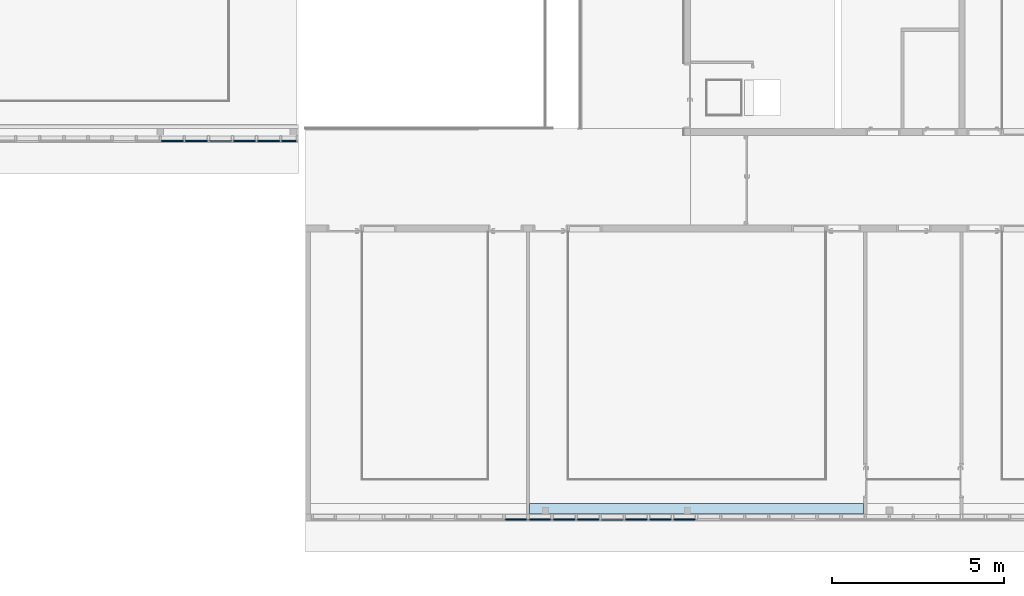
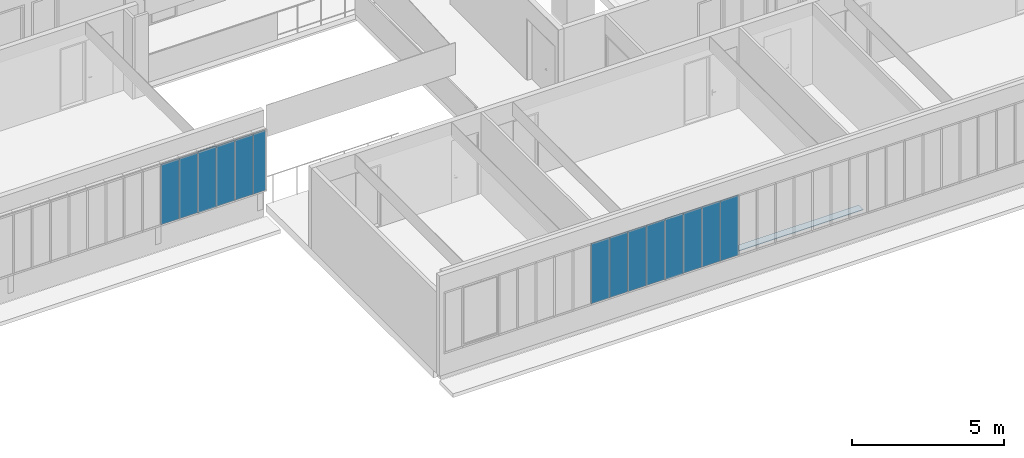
# One storey, part 21 of 87: 14 plates, 1 slab, 2 elements without a shape of their own.
"""IFC2X3 building model written with IfcOpenShell, lengths in centimetres."""

from ifc_helpers import new_model, entity, si_unit, converted_unit, derived_unit, direction, frame, frame_2d, origin, origin_2d_with_axis, place, context, subcontext, project, spatial, rectangle, extrude, face_set, surface_model, source, transform, mapped, material, layer, layer_set, layer_usage, type_object, type_shapes, element, aggregate, save


model = new_model("IFC2X3")

# Units and contexts
model_context = context("Model", 3, precision=0.001, world=origin(), true_north=direction((6.12303176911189e-17, 1.0)))
body_context = subcontext(model_context, "Body", "Model", "MODEL_VIEW")
ifc_project = project(units=[si_unit("LENGTHUNIT", "METRE", prefix="CENTI"), si_unit("AREAUNIT", "SQUARE_METRE"), si_unit("VOLUMEUNIT", "CUBIC_METRE"), converted_unit("PLANEANGLEUNIT", "DEGREE", entity("IfcRatioMeasure", 0.0174532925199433), si_unit("PLANEANGLEUNIT", "RADIAN"), dimensions=[0, 0, 0, 0, 0, 0, 0]), si_unit("MASSUNIT", "GRAM", prefix="KILO"), derived_unit("MASSDENSITYUNIT", [(si_unit("MASSUNIT", "GRAM", prefix="KILO"), 1), (si_unit("LENGTHUNIT", "METRE"), -3)]), si_unit("TIMEUNIT", "SECOND"), si_unit("FREQUENCYUNIT", "HERTZ"), si_unit("THERMODYNAMICTEMPERATUREUNIT", "DEGREE_CELSIUS"), derived_unit("THERMALTRANSMITTANCEUNIT", [(si_unit("MASSUNIT", "GRAM", prefix="KILO"), 1), (si_unit("THERMODYNAMICTEMPERATUREUNIT", "KELVIN"), -1), (si_unit("TIMEUNIT", "SECOND"), -3)]), derived_unit("VOLUMETRICFLOWRATEUNIT", [(si_unit("LENGTHUNIT", "METRE"), 3), (si_unit("TIMEUNIT", "SECOND"), -1)]), si_unit("ELECTRICCURRENTUNIT", "AMPERE"), si_unit("ELECTRICVOLTAGEUNIT", "VOLT"), si_unit("POWERUNIT", "WATT"), si_unit("FORCEUNIT", "NEWTON", prefix="KILO"), si_unit("ILLUMINANCEUNIT", "LUX"), si_unit("LUMINOUSFLUXUNIT", "LUMEN"), si_unit("LUMINOUSINTENSITYUNIT", "CANDELA"), derived_unit("USERDEFINED", [(si_unit("MASSUNIT", "GRAM", prefix="KILO"), -1), (si_unit("LENGTHUNIT", "METRE"), -2), (si_unit("TIMEUNIT", "SECOND"), 3), (si_unit("LUMINOUSFLUXUNIT", "LUMEN"), 1)]), derived_unit("LINEARVELOCITYUNIT", [(si_unit("LENGTHUNIT", "METRE"), 1), (si_unit("TIMEUNIT", "SECOND"), -1)]), si_unit("PRESSUREUNIT", "PASCAL"), derived_unit("USERDEFINED", [(si_unit("LENGTHUNIT", "METRE"), -2), (si_unit("MASSUNIT", "GRAM", prefix="KILO"), 1), (si_unit("TIMEUNIT", "SECOND"), -2)])], contexts=[model_context])

# Site, building, storey
site_placement = place(None, frame((-2781.94577612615, 7442.24238424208, 0.0)))
site = spatial("IfcSite", under=ifc_project, at=site_placement, Name="Default", CompositionType="ELEMENT")
building_placement = place(site_placement, origin())
building = spatial("IfcBuilding", under=site, at=building_placement, CompositionType="ELEMENT")
storey_placement = place(building_placement, frame((0.0, 0.0, 774.0)))
storey = spatial("IfcBuildingStorey", under=building, at=storey_placement, Name="TR - N02 - ARCH", CompositionType="ELEMENT", Elevation=774.0)

# Curtain wall, plates
curtain_wall_type = type_object("IfcCurtainWallType", Name="Mur-rideau:07 - mur rideau trame 70cm", PredefinedType="NOTDEFINED")
curtain_wall_1_placement = place(storey_placement, frame((0.0, 0.0, -774.0)))
curtain_wall_1 = element("IfcCurtainWall", 1, at=curtain_wall_1_placement, inside=storey, type_object=curtain_wall_type, Name="Mur-rideau:07 - mur rideau trame 70cm", ObjectType="Mur-rideau:07 - mur rideau trame 70cm")
ifc_material_1 = material(Name="Verre")
ifc_layer_1 = layer(ifc_material_1, 4.0)
ifc_layer_set_1 = layer_set([ifc_layer_1], Name="Panneau système:Vitré")
ifc_layer_usage_1 = layer_usage(ifc_layer_set_1, "AXIS3", "POSITIVE", 0.0)
plate_type_1 = type_object("IfcPlateType", Name="Vitré", PredefinedType="CURTAIN_PANEL", material=ifc_layer_set_1)
shared_shape_1 = source(origin(), body_context, "Body", "SweptSolid", [
    extrude(rectangle(XDim=4.0, YDim=68.2624999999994, at=origin_2d_with_axis()), frame((0.0, 0.0, 0.0), z_axis=(0.0, 0.0, 1.0), x_axis=(0.0, 1.0, 0.0)), (0.0, 0.0, 1.0), 240.7625),
])
type_shapes(plate_type_1, [shared_shape_1])
plate_1_placement = place(curtain_wall_1_placement, frame((-5154.49987763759, -1946.27903364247, 861.61875)))
plate_1 = element("IfcPlate", 2, at=plate_1_placement, type_object=plate_type_1, material=ifc_layer_usage_1, Name="Panneau système:Vitré", ObjectType="Panneau système:Vitré", context=body_context, shape_type="MappedRepresentation", body=[
    mapped(shared_shape_1, transform((0.0, 0.0, 0.0), scale=1.0)),
])
ifc_layer_usage_2 = layer_usage(ifc_layer_set_1, "AXIS3", "POSITIVE", 0.0)
plate_2_placement = place(curtain_wall_1_placement, frame((-5084.49987763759, -1946.27903364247, 861.61875)))
plate_2 = element("IfcPlate", 3, at=plate_2_placement, type_object=plate_type_1, material=ifc_layer_usage_2, Name="Panneau système:Vitré", ObjectType="Panneau système:Vitré", context=body_context, shape_type="MappedRepresentation", body=[
    mapped(shared_shape_1, transform((0.0, 0.0, 0.0), scale=1.0)),
])
ifc_layer_usage_3 = layer_usage(ifc_layer_set_1, "AXIS3", "POSITIVE", 0.0)
plate_3_placement = place(curtain_wall_1_placement, frame((-4944.49987763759, -1946.27903364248, 861.61875)))
plate_3 = element("IfcPlate", 4, at=plate_3_placement, type_object=plate_type_1, material=ifc_layer_usage_3, Name="Panneau système:Vitré", ObjectType="Panneau système:Vitré", context=body_context, shape_type="MappedRepresentation", body=[
    mapped(shared_shape_1, transform((0.0, 0.0, 0.0), scale=1.0)),
])
ifc_layer_usage_4 = layer_usage(ifc_layer_set_1, "AXIS3", "POSITIVE", 0.0)
plate_4_placement = place(curtain_wall_1_placement, frame((-4874.49987763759, -1946.27903364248, 861.61875)))
plate_4 = element("IfcPlate", 5, at=plate_4_placement, type_object=plate_type_1, material=ifc_layer_usage_4, Name="Panneau système:Vitré", ObjectType="Panneau système:Vitré", context=body_context, shape_type="MappedRepresentation", body=[
    mapped(shared_shape_1, transform((0.0, 0.0, 0.0), scale=1.0)),
])

curtain_wall_2_placement = place(storey_placement, frame((0.0, 0.0, -774.0)))
curtain_wall_2 = element("IfcCurtainWall", 6, at=curtain_wall_2_placement, inside=storey, type_object=curtain_wall_type, Name="Mur-rideau:07 - mur rideau trame 70cm", ObjectType="Mur-rideau:07 - mur rideau trame 70cm")
ifc_layer_usage_5 = layer_usage(ifc_layer_set_1, "AXIS3", "POSITIVE", 0.0)
plate_5_placement = place(curtain_wall_2_placement, frame((-4155.749882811, -3046.51349958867, 861.618750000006)))
plate_5 = element("IfcPlate", 7, at=plate_5_placement, type_object=plate_type_1, material=ifc_layer_usage_5, Name="Panneau système:Vitré", ObjectType="Panneau système:Vitré", context=body_context, shape_type="MappedRepresentation", body=[
    mapped(shared_shape_1, transform((0.0, 0.0, 0.0), scale=1.0)),
])
ifc_layer_usage_6 = layer_usage(ifc_layer_set_1, "AXIS3", "POSITIVE", 0.0)
plate_6_placement = place(curtain_wall_2_placement, frame((-4085.749882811, -3046.51349958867, 861.618750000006)))
plate_6 = element("IfcPlate", 8, at=plate_6_placement, type_object=plate_type_1, material=ifc_layer_usage_6, Name="Panneau système:Vitré", ObjectType="Panneau système:Vitré", context=body_context, shape_type="MappedRepresentation", body=[
    mapped(shared_shape_1, transform((0.0, 0.0, 0.0), scale=1.0)),
])
ifc_layer_usage_7 = layer_usage(ifc_layer_set_1, "AXIS3", "POSITIVE", 0.0)
plate_7_placement = place(curtain_wall_2_placement, frame((-4015.749882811, -3046.51349958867, 861.618750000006)))
plate_7 = element("IfcPlate", 9, at=plate_7_placement, type_object=plate_type_1, material=ifc_layer_usage_7, Name="Panneau système:Vitré", ObjectType="Panneau système:Vitré", context=body_context, shape_type="MappedRepresentation", body=[
    mapped(shared_shape_1, transform((0.0, 0.0, 0.0), scale=1.0)),
])
ifc_layer_usage_8 = layer_usage(ifc_layer_set_1, "AXIS3", "POSITIVE", 0.0)
plate_8_placement = place(curtain_wall_2_placement, frame((-3945.749882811, -3046.51349958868, 861.618750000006)))
plate_8 = element("IfcPlate", 10, at=plate_8_placement, type_object=plate_type_1, material=ifc_layer_usage_8, Name="Panneau système:Vitré", ObjectType="Panneau système:Vitré", context=body_context, shape_type="MappedRepresentation", body=[
    mapped(shared_shape_1, transform((0.0, 0.0, 0.0), scale=1.0)),
])
ifc_layer_usage_9 = layer_usage(ifc_layer_set_1, "AXIS3", "POSITIVE", 0.0)
plate_9_placement = place(curtain_wall_2_placement, frame((-3805.749882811, -3046.51349958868, 861.618750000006)))
plate_9 = element("IfcPlate", 11, at=plate_9_placement, type_object=plate_type_1, material=ifc_layer_usage_9, Name="Panneau système:Vitré", ObjectType="Panneau système:Vitré", context=body_context, shape_type="MappedRepresentation", body=[
    mapped(shared_shape_1, transform((0.0, 0.0, 0.0), scale=1.0)),
])
ifc_layer_usage_10 = layer_usage(ifc_layer_set_1, "AXIS3", "POSITIVE", 0.0)
plate_10_placement = place(curtain_wall_2_placement, frame((-3735.749882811, -3046.51349958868, 861.618750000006)))
plate_10 = element("IfcPlate", 12, at=plate_10_placement, type_object=plate_type_1, material=ifc_layer_usage_10, Name="Panneau système:Vitré", ObjectType="Panneau système:Vitré", context=body_context, shape_type="MappedRepresentation", body=[
    mapped(shared_shape_1, transform((0.0, 0.0, 0.0), scale=1.0)),
])
ifc_layer_usage_11 = layer_usage(ifc_layer_set_1, "AXIS3", "POSITIVE", 0.0)
plate_11_placement = place(curtain_wall_2_placement, frame((-3665.749882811, -3046.51349958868, 861.618750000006)))
plate_11 = element("IfcPlate", 13, at=plate_11_placement, type_object=plate_type_1, material=ifc_layer_usage_11, Name="Panneau système:Vitré", ObjectType="Panneau système:Vitré", context=body_context, shape_type="MappedRepresentation", body=[
    mapped(shared_shape_1, transform((0.0, 0.0, 0.0), scale=1.0)),
])

# Plate
plate_type_2 = type_object("IfcPlateType", Name="Vitré", PredefinedType="CURTAIN_PANEL", material=ifc_layer_set_1)
shared_shape_2 = source(origin(), body_context, "Body", "SurfaceModel", [
    surface_model("IfcFaceBasedSurfaceModel", [(33.8093776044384, -2.0, 0.0), (33.8093776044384, -2.0, 244.2375), (-34.1906223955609, -2.0, 244.2375), (-34.1906223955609, -2.0, 0.0), (-34.0718776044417, -2.0, 1.73749999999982), (-34.0718776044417, -2.0, 242.5), (34.1906223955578, -2.0, 242.5), (34.1906223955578, -2.0, 1.73749999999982), (-34.0718776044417, 2.0, 1.73749999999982), (34.1906223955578, 2.0, 1.73749999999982), (34.1906223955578, 2.0, 242.5), (-34.0718776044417, 2.0, 242.5), (-34.1906223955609, 2.0, 0.0), (33.8093776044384, 2.0, 0.0), (-34.1906223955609, 2.0, 244.2375), (33.8093776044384, 2.0, 244.2375)], [face_set([[[0, 1, 2, 3], [4, 5, 6, 7]], [[7, 4, 8, 9]], [[6, 7, 9, 10]], [[5, 6, 10, 11]], [[4, 5, 11, 8]], [[3, 12, 13, 0]], [[2, 14, 12, 3]], [[1, 15, 14, 2]], [[0, 13, 15, 1]]])]),
])
type_shapes(plate_type_2, [shared_shape_2])
plate_12_placement = place(curtain_wall_1_placement, frame((-5014.55925003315, -1946.27903364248, 859.88125)))
plate_12 = element("IfcPlate", 14, at=plate_12_placement, type_object=plate_type_2, Name="Panneau système:Vitré", ObjectType="Panneau système:Vitré", context=body_context, shape_type="MappedRepresentation", body=[
    mapped(shared_shape_2, transform((0.0, 0.0, 0.0), scale=1.0)),
])

plate_13_placement = place(curtain_wall_2_placement, frame((-3875.80925520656, -3046.51349958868, 859.88125)))
plate_13 = element("IfcPlate", 15, at=plate_13_placement, type_object=plate_type_2, Name="Panneau système:Vitré", ObjectType="Panneau système:Vitré", context=body_context, shape_type="MappedRepresentation", body=[
    mapped(shared_shape_2, transform((0.0, 0.0, 0.0), scale=1.0)),
])

aggregate(curtain_wall_2, [plate_5, plate_6, plate_7, plate_8, plate_13, plate_9, plate_10, plate_11])

ifc_layer_usage_12 = layer_usage(ifc_layer_set_1, "AXIS3", "POSITIVE", 0.0)
plate_type_3 = type_object("IfcPlateType", Name="Vitré", PredefinedType="CURTAIN_PANEL", material=ifc_layer_set_1)
shared_shape_3 = source(origin(), body_context, "Body", "SweptSolid", [
    extrude(rectangle(XDim=4.0, YDim=46.5125000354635, at=origin_2d_with_axis()), frame((0.0, 0.0, 0.0), z_axis=(0.0, 0.0, 1.0), x_axis=(0.0, 1.0, 0.0)), (0.0, 0.0, 1.0), 240.7625),
])
type_shapes(plate_type_3, [shared_shape_3])
plate_14_placement = place(curtain_wall_1_placement, frame((-4815.37487761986, -1946.27903364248, 861.61875)))
plate_14 = element("IfcPlate", 16, at=plate_14_placement, type_object=plate_type_3, material=ifc_layer_usage_12, Name="Panneau système:Vitré", ObjectType="Panneau système:Vitré", context=body_context, shape_type="MappedRepresentation", body=[
    mapped(shared_shape_3, transform((0.0, 0.0, 0.0), scale=1.0)),
])

aggregate(curtain_wall_1, [plate_1, plate_2, plate_12, plate_3, plate_4, plate_14])

# Slab
ifc_material_2 = material(Name="Bois tablettes")
ifc_layer_2 = layer(ifc_material_2, 2.0)
ifc_layer_set_2 = layer_set([ifc_layer_2], Name="Sol:02 - Tablette bois 2cm")
ifc_layer_usage_13 = layer_usage(ifc_layer_set_2, "AXIS3", "POSITIVE", 0.0)
slab_type = type_object("IfcSlabType", Name="Sol:02 - Tablette bois 2cm", PredefinedType="FLOOR")
slab_placement = place(storey_placement, frame((-7966.49987760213, -3031.21349958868, 88.0)))
element("IfcSlab", 17, at=slab_placement, inside=storey, type_object=slab_type, material=ifc_layer_usage_13, Name="Sol:02 - Tablette bois 2cm", ObjectType="Sol:02 - Tablette bois 2cm", PredefinedType="FLOOR", context=body_context, shape_type="SweptSolid", body=[
    extrude(rectangle(XDim=969.949997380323, YDim=29.9308509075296, at=frame_2d((-567.474998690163, -550.632658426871), x_axis=(-1.0, 0.0))), frame((3768.24999738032, 566.567232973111, 2.0), z_axis=(0.0, 0.0, -1.0), x_axis=(-1.0, 0.0, 0.0)), (0.0, 0.0, 1.0), 1.99999999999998),
])

save(model, "model.ifc")
